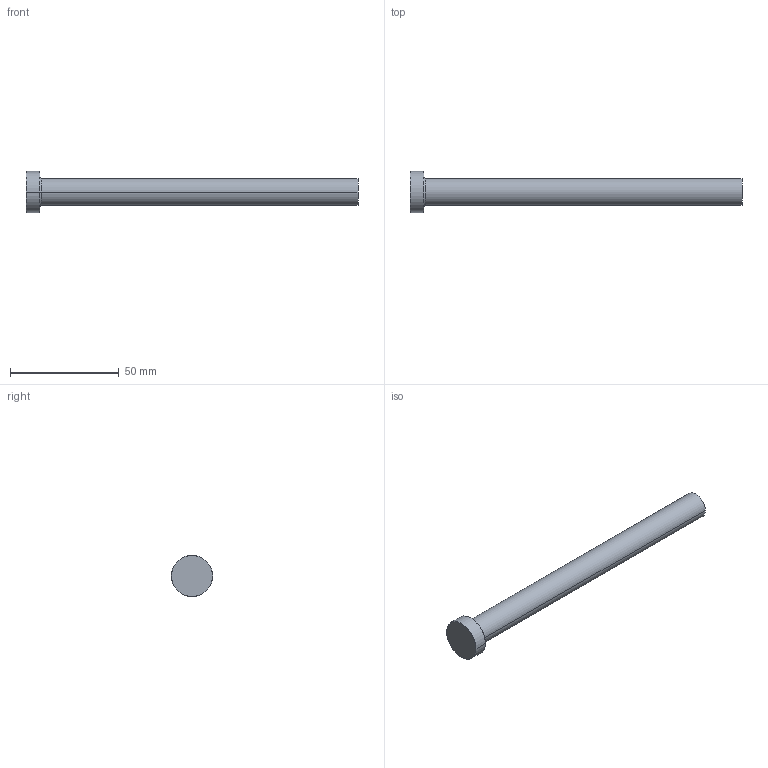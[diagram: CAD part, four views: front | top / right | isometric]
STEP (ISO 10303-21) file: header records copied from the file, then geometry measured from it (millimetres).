
FILE_DESCRIPTION (( 'STEP AP214' ), '1' );
FILE_NAME ('P32-6.STEP', '2020-03-12T10:39:27', ( '' ), ( '' ), 'SwSTEP 2.0', 'SolidWorks 2018', '' );
FILE_SCHEMA (( 'AUTOMOTIVE_DESIGN' ));
Length unit declared in the file: inch
Products named in the file (1): P32-6
Bounding box: 152.4 x 19.05 x 19.05 mm (x, y, z)
Volume: 19155.6 mm3; surface area: 6572.1 mm2
Topology: 1 solids, 1 shells, 13 faces, 24 edges, 14 vertices
Faces by surface type: cone 4, cylinder 4, plane 3, torus 2
Entity records: 366 total; most frequent: DIRECTION 68, CARTESIAN_POINT 52, ORIENTED_EDGE 48, AXIS2_PLACEMENT_3D 30, EDGE_CURVE 24, CIRCLE 16, VERTEX_POINT 14, EDGE_LOOP 14
